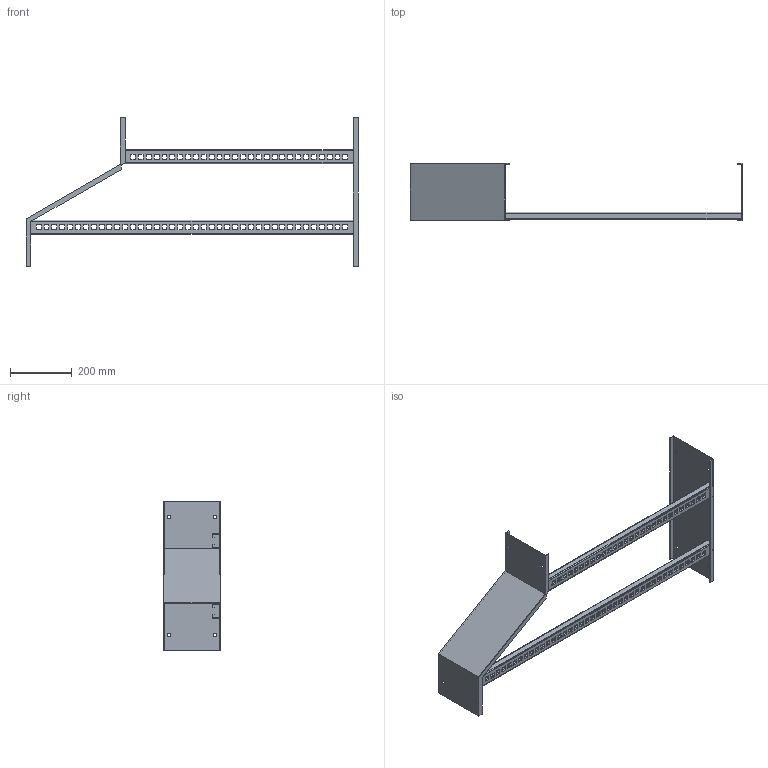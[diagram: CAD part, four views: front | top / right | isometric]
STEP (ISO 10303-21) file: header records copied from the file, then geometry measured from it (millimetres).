
FILE_DESCRIPTION((''),'2;1');
FILE_NAME('AUF74230LHLR_ASM','2010-01-27T',('erouzier'),(''),'PRO/ENGINEER BY PARAMETRIC TECHNOLOGY CORPORATION, 2008510','PRO/ENGINEER BY PARAMETRIC TECHNOLOGY CORPORATION, 2008510','');
FILE_SCHEMA(('CONFIG_CONTROL_DESIGN'));
Length unit declared in the file: inch
Products named in the file (5): CDS013866-7-120; CDS013975-7-12; CDS002159L42-P; CDS002159L30-P_AF1; AUF74230LHLR_ASM
Assembly tree (4 placements, depth 2):
  AUF74230LHLR_ASM
    CDS013866-7-120
    CDS013975-7-12
    CDS002159L42-P
    CDS002159L30-P_AF1
Bounding box: 1072.39 x 183.9 x 480.78 mm (x, y, z)
Volume: 898788.7 mm3; surface area: 887839.9 mm2
Topology: 4 solids, 4 shells, 670 faces, 1980 edges, 1318 vertices
Faces by surface type: plane 376, cylinder 294
Entity records: 22907 total; most frequent: CARTESIAN_POINT 3977, ORIENTED_EDGE 3960, DIRECTION 3926, EDGE_CURVE 1980, VECTOR 1392, LINE 1392, VERTEX_POINT 1318, AXIS2_PLACEMENT_3D 1267
